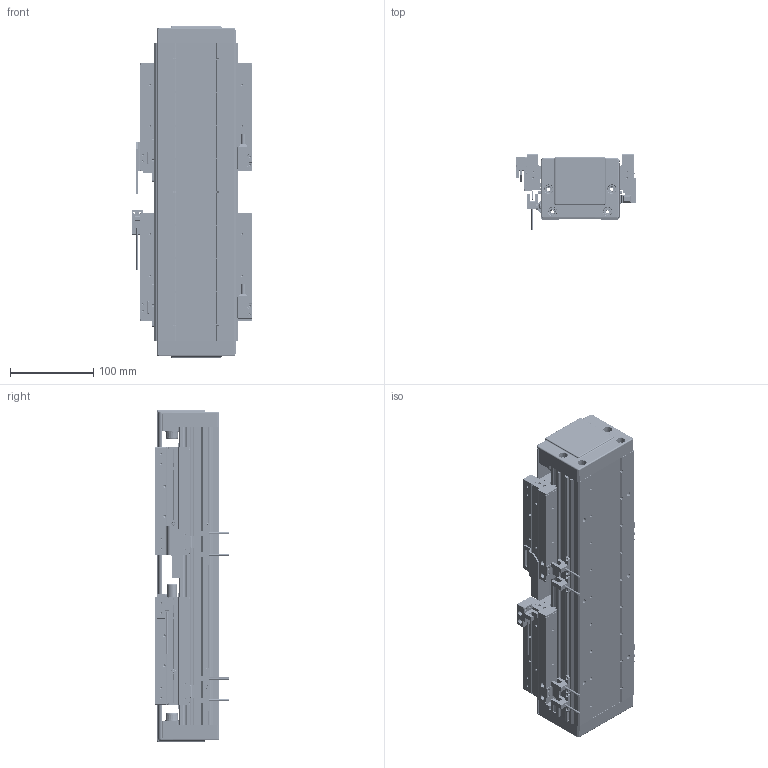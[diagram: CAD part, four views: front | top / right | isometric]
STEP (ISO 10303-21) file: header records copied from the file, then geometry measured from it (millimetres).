
FILE_DESCRIPTION (( 'STEP AP203' ), '1' );
FILE_NAME ('DA-B95-2-B15-T20-C010-0.2 直线电机.STEP', '2023-05-06T06:13:27', ( '微软用户' ), ( '微软中国' ), 'SwSTEP 2.0', 'SolidWorks 2019', '' );
FILE_SCHEMA (( 'CONFIG_CONTROL_DESIGN' ));
Length unit declared in the file: millimetre
Products named in the file (32): 葩璃 BKMA01-W060-TRL^DA-A95-B15-T-C010-0.2-N 眻盄萇儂; 复件 DA95-DB-00  挡板^66245-BU95-V 滚珠滑台; 复件 DKW-GYP-ZJ-00 中间光电感应片^DA-A95-B15-T-C010-0.2-N 直线电机; 复件 66245-BU95-HT-V-01 滑动台板^66245-BU95-V-00 一体化滑动台板; B15 XD-U-02L ｴﾅﾕ､ｳﾟ^DA-A95-B15-T-C010-0.2-N ﾖｱﾏﾟｵ扈銈XD-U-02L; 66245-BU95-V-00 珨极趙賑雄怢啣; IU-BU95-L-00 菁釱_L360; 葩璃 PM-Y45^DA-A95-B15-T-C010-0.2-N 眻盄萇儂; DA-A95-GYP-00 光电感应片^DA-A95-B15-T-C010-0.2-N 直线电机; DA-B95-2-B15-T20-C010-0.2 眻盄萇儂; ｸｴｼ DA95-Txxx-002-00 ｸﾇｰ蘓DA-A95-B15-T-C010-0.2-N ﾖｱﾏﾟｵ扈銈T+30; 66245-BU95-V 幗紩賑怢; 复件 DA95-HK-GT-00 滑块钢轨^66245-BU95-V-00 一体化滑动台板; 复件 DA95-B15-YB-A-00 压板A^66245-BU95-V 滚珠滑台; PM-T45 光电开关^DA-A95-B15-T-C010-0.2-N 直线电机; IU-BU95-L 菁釱絳寢; 葩璃 DA95-B15-DP-A-00 菜えA^66245-BU95-V 幗紩賑怢; DA95-HXJ-00 缓冲橡胶^DA-A95-B15-T-C010-0.2-N 直线电机; 复件 DA95-MFP-01 密封片^66245-BU95-V 滚珠滑台; LMDK-2-R001-V5-L02-C1-F00，0.2M 读数头^DA-A95-B15-T-C010-0.2-N 直线电机_DMA-010-0.2; 复件 六角薄螺母 M3^DA-A95-B15-T-C010-0.2-N 直线电机_GB_FASTENER_NUT_STNAB M3-C; DA95-DG-H-01^DA-A95-B15-T-C010-0.2-N 眻盄萇儂; 复件 DA95-B15-YB-B-00 压板B^66245-BU95-V 滚珠滑台; 葩璃 BKM015-W060-C1-TP-DA-0.2^DA-A95-B15-T-C010-0.2-N 眻盄萇儂; 葩璃 DA95-GT-T-00^IU-BU95-L 菁釱絳寢_DA95; 复件 DKW-HXJ-JY-00 缓冲橡胶^DA-A95-B15-T-C010-0.2-N 直线电机; 复件 纯铜油杯 6x6mm^66245-BU95-V 滚珠滑台; 葩璃 DA95-B15-DP--B-00 菜えB^66245-BU95-V 幗紩賑怢; 复件 DKW-KGZ-ZJ-00 中间光电开关支架^DA-A95-B15-T-C010-0.2-N 直线电机; 复件 DA95-DK-00 挡块^66245-BU95-V 滚珠滑台
Assembly tree (76 placements, depth 4):
  DA-B95-2-B15-T20-C010-0.2 眻盄萇儂
    IU-BU95-L 菁釱絳寢
      IU-BU95-L-00 菁釱_L360
      葩璃 DA95-GT-T-00^IU-BU95-L 菁釱絳寢_DA95  x2
    66245-BU95-V 幗紩賑怢
      66245-BU95-V-00 珨极趙賑雄怢啣
        复件 66245-BU95-HT-V-01 滑动台板^66245-BU95-V-00 一体化滑动台板
        复件 DA95-HK-GT-00 滑块钢轨^66245-BU95-V-00 一体化滑动台板  x2
      葩璃 DA95-B15-DP-A-00 菜えA^66245-BU95-V 幗紩賑怢
      复件 DA95-B15-YB-A-00 压板A^66245-BU95-V 滚珠滑台
      复件 DA95-B15-YB-B-00 压板B^66245-BU95-V 滚珠滑台
      复件 DA95-DB-00  挡板^66245-BU95-V 滚珠滑台  x4
      复件 DA95-DK-00 挡块^66245-BU95-V 滚珠滑台  x2
      复件 DA95-MFP-01 密封片^66245-BU95-V 滚珠滑台  x4
      复件 纯铜油杯 6x6mm^66245-BU95-V 滚珠滑台  x2
      葩璃 DA95-B15-DP--B-00 菜えB^66245-BU95-V 幗紩賑怢
    66245-BU95-V 幗紩賑怢
      66245-BU95-V-00 珨极趙賑雄怢啣
        复件 66245-BU95-HT-V-01 滑动台板^66245-BU95-V-00 一体化滑动台板
        复件 DA95-HK-GT-00 滑块钢轨^66245-BU95-V-00 一体化滑动台板  x2
      葩璃 DA95-B15-DP-A-00 菜えA^66245-BU95-V 幗紩賑怢
      复件 DA95-B15-YB-A-00 压板A^66245-BU95-V 滚珠滑台
      复件 DA95-B15-YB-B-00 压板B^66245-BU95-V 滚珠滑台
      复件 DA95-DB-00  挡板^66245-BU95-V 滚珠滑台  x4
      复件 DA95-DK-00 挡块^66245-BU95-V 滚珠滑台  x2
      复件 DA95-MFP-01 密封片^66245-BU95-V 滚珠滑台  x4
      复件 纯铜油杯 6x6mm^66245-BU95-V 滚珠滑台  x2
      葩璃 DA95-B15-DP--B-00 菜えB^66245-BU95-V 幗紩賑怢
    DA-A95-GYP-00 光电感应片^DA-A95-B15-T-C010-0.2-N 直线电机  x2
    LMDK-2-R001-V5-L02-C1-F00，0.2M 读数头^DA-A95-B15-T-C010-0.2-N 直线电机_DMA-010-0.2  x2
    复件 DKW-KGZ-ZJ-00 中间光电开关支架^DA-A95-B15-T-C010-0.2-N 直线电机
    葩璃 PM-Y45^DA-A95-B15-T-C010-0.2-N 眻盄萇儂
    复件 DKW-GYP-ZJ-00 中间光电感应片^DA-A95-B15-T-C010-0.2-N 直线电机
    葩璃 BKM015-W060-C1-TP-DA-0.2^DA-A95-B15-T-C010-0.2-N 眻盄萇儂  x2
    复件 DKW-HXJ-JY-00 缓冲橡胶^DA-A95-B15-T-C010-0.2-N 直线电机  x2
    PM-T45 光电开关^DA-A95-B15-T-C010-0.2-N 直线电机  x4
    B15 XD-U-02L ｴﾅﾕ､ｳﾟ^DA-A95-B15-T-C010-0.2-N ﾖｱﾏﾟｵ扈銈XD-U-02L
    DA95-DG-H-01^DA-A95-B15-T-C010-0.2-N 眻盄萇儂  x2
    ｸｴｼ DA95-Txxx-002-00 ｸﾇｰ蘓DA-A95-B15-T-C010-0.2-N ﾖｱﾏﾟｵ扈銈T+30
    DA95-HXJ-00 缓冲橡胶^DA-A95-B15-T-C010-0.2-N 直线电机  x4
    葩璃 BKMA01-W060-TRL^DA-A95-B15-T-C010-0.2-N 眻盄萇儂
    复件 六角薄螺母 M3^DA-A95-B15-T-C010-0.2-N 直线电机_GB_FASTENER_NUT_STNAB M3-C  x6
Bounding box: 145.4 x 90.2 x 400 mm (x, y, z)
Volume: 2419141.9 mm3; surface area: 712628.6 mm2
Topology: 71 solids, 89 shells, 3998 faces, 10048 edges, 6141 vertices
Faces by surface type: cylinder 1636, plane 1410, cone 544, bspline 344, torus 60, sphere 4
Entity records: 72045 total; most frequent: CARTESIAN_POINT 19076, DIRECTION 10147, ORIENTED_EDGE 10034, EDGE_CURVE 5017, AXIS2_PLACEMENT_3D 3755, VERTEX_POINT 3156, LINE 2637, VECTOR 2637
